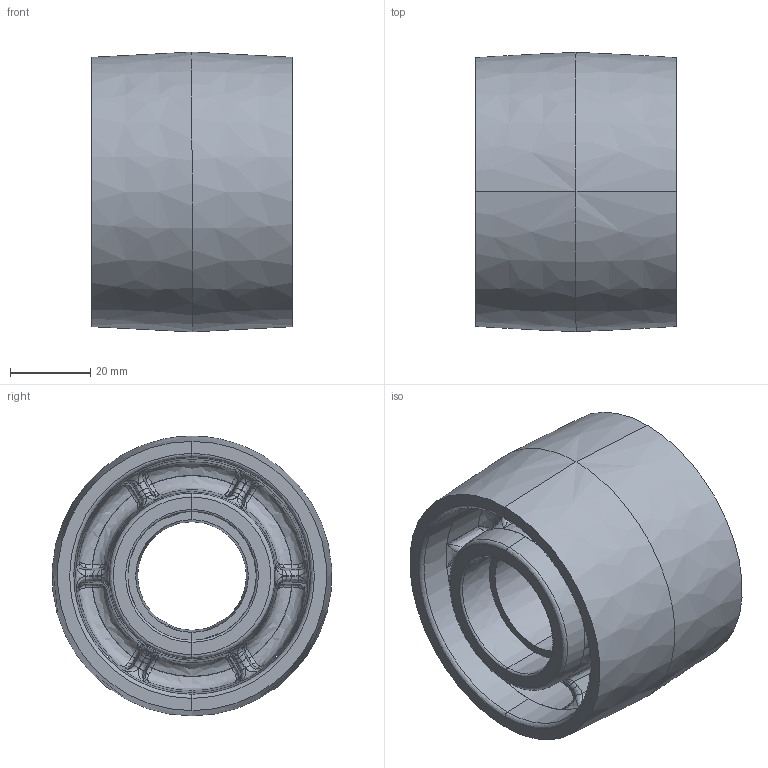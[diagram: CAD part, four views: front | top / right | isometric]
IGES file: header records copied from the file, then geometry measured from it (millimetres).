
Start section: JAMA-IS VERSION  1.0
Global section: file name: E:\tools-models\その他メーカー2\INOAC車輪\7月\HP-100WJ\HP-100WJ-19.igs; native system: CAM-TOOL; preprocessor: C3out Version 11.1.1.50212 (2015/02/12); author: NONE; organization: NONE; date: 200704.165120; units: millimetre
Bounding box: 50 x 69.48 x 69.62 mm (x, y, z)
Surface area: 33447.5 mm2 (no closed solid volume)
Topology: 0 solids, 0 shells, 426 faces, 2868 edges, 2868 vertices
Faces by surface type: bspline 426
